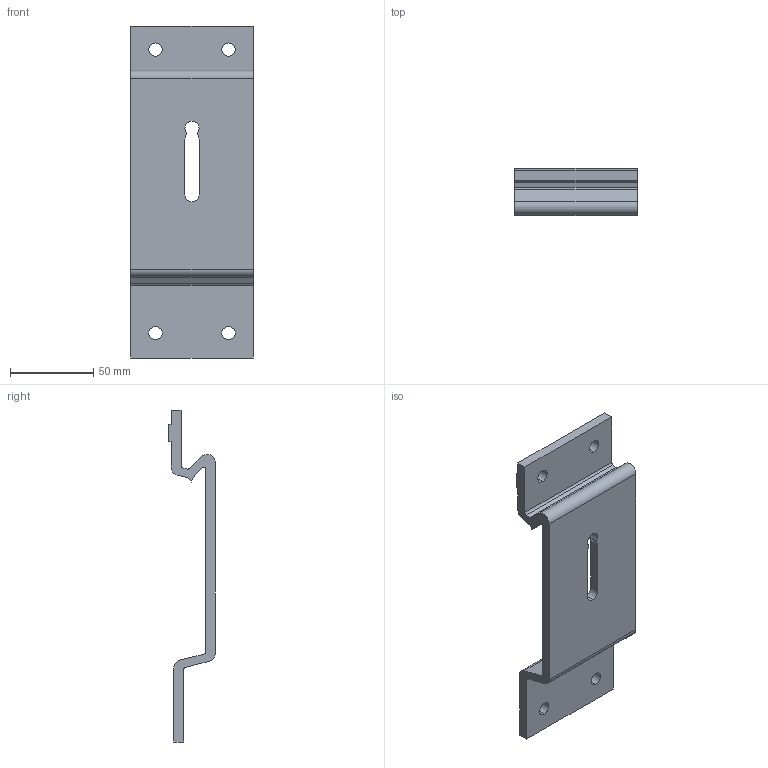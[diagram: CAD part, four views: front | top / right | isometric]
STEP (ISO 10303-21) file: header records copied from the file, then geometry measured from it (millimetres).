
FILE_DESCRIPTION (( 'STEP AP214' ), '1' );
FILE_NAME ('FAVBS 88M.step', '2017-04-05T08:00:34', ( '' ), ( '' ), 'SwSTEP 2.0', 'SolidWorks 2015', '' );
FILE_SCHEMA (( 'AUTOMOTIVE_DESIGN' ));
Length unit declared in the file: millimetre
Products named in the file (1): FAVBS 88M
Bounding box: 74 x 28.2 x 200 mm (x, y, z)
Volume: 100851 mm3; surface area: 39981.3 mm2
Topology: 1 solids, 1 shells, 48 faces, 138 edges, 92 vertices
Faces by surface type: cylinder 24, plane 24
Entity records: 1644 total; most frequent: DIRECTION 284, CARTESIAN_POINT 279, ORIENTED_EDGE 276, EDGE_CURVE 138, AXIS2_PLACEMENT_3D 97, VERTEX_POINT 92, LINE 90, VECTOR 90
